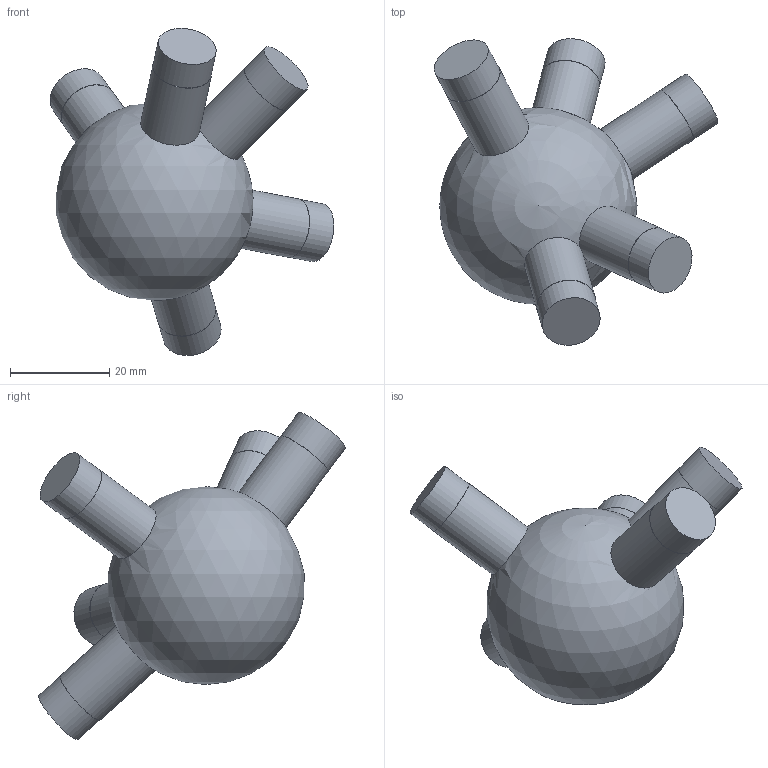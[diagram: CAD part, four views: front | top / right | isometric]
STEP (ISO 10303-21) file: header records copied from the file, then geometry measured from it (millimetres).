
FILE_DESCRIPTION(('Open CASCADE Model'),'2;1');
FILE_NAME('Open CASCADE Shape Model','2026-10-21T12:47:57',('Author'),( 'Open CASCADE'),'Open CASCADE STEP processor 7.9','Open CASCADE 7.9' ,'Unknown');
FILE_SCHEMA(('AUTOMOTIVE_DESIGN { 1 0 10303 214 1 1 1 1 }'));
Length unit declared in the file: millimetre
Products named in the file (1): Open CASCADE STEP translator 7.9 123
Bounding box: 57.32 x 62.01 x 66.07 mm (x, y, z)
Volume: 45007.8 mm3; surface area: 8941.9 mm2
Topology: 1 solids, 1 shells, 21 faces, 37 edges, 25 vertices
Faces by surface type: cylinder 10, plane 10, sphere 1
Full cylindrical faces by diameter (mm): 11.9 x5, 12 x5
Entity records: 1428 total; most frequent: CARTESIAN_POINT 642, DIRECTION 159, ORIENTED_EDGE 68, PCURVE 68, DEFINITIONAL_REPRESENTATION 68, LINE 52, VECTOR 52, AXIS2_PLACEMENT_3D 46
